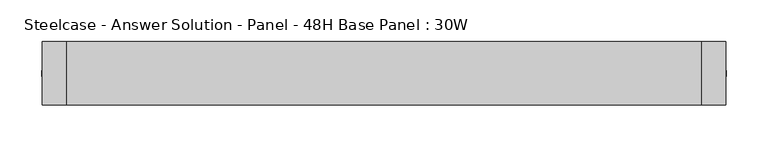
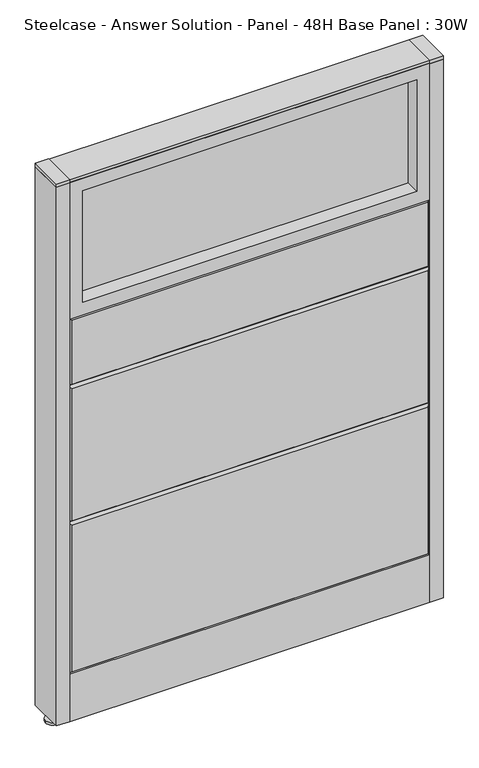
"""IFC4 building model written with IfcOpenShell, lengths in millimetres: furniture geometry, Steelcase - Answer Solution - Panel - 48H Base Panel : 30W."""

from ifc_helpers import new_model, si_unit, point, frame, frame_2d, origin, place, context, project, spatial, polyline, circle_curve, trimmed, segment, composite_curve, outline, extrude, faceted_brep, source, transform, mapped, element, save


def steelcase_answer_solution_panel_48h_base_panel_30w_fe541a43(model_context):
    return source(origin(), model_context, "Body", "SolidModel", [
        extrude(outline(composite_curve([segment(trimmed(circle_curve(frame_2d((395.224, 0.0320214)), 5.08), [point((400.304, 0.0320214))], [point((390.144, 0.0320214))], False, "CARTESIAN"), True, "CONTINUOUS"), segment(trimmed(circle_curve(frame_2d((395.224, 0.0320214)), 5.08), [point((390.144, 0.0320214))], [point((400.304, 0.0320214))], False, "CARTESIAN"), True, "CONTINUOUS")], self_intersect=False)), frame((0.0, 0.0, 5.0799671), z_axis=(0.0, 0.0, 1.0), x_axis=(1.0, 0.0, 0.0)), (0.0, 0.0, 1.0), 10.414),
        extrude(outline(composite_curve([segment(trimmed(circle_curve(frame_2d((395.224, 0.0320214)), 15.24), [point((410.464, 0.0320214))], [point((379.984, 0.0320214))], False, "CARTESIAN"), True, "CONTINUOUS"), segment(trimmed(circle_curve(frame_2d((395.224, 0.0320214)), 15.24), [point((379.984, 0.0320214))], [point((410.464, 0.0320214))], False, "CARTESIAN"), True, "CONTINUOUS")], self_intersect=False)), frame((0.0, 0.0, -3.29e-05), z_axis=(0.0, 0.0, 1.0), x_axis=(1.0, 0.0, 0.0)), (0.0, 0.0, 1.0), 5.08),
        extrude(outline(polyline([(409.575, 38.1320408), (409.575, -38.0679592), (381.0, -38.0679592), (381.0, 38.1320408), (409.575, 38.1320408)])), frame((0.0, 0.0, 1218.2348), z_axis=(0.0, 0.0, 1.0), x_axis=(1.0, 0.0, 0.0)), (0.0, 0.0, 1.0), 7.3151671),
        extrude(outline(polyline([(409.575, 38.1320408), (409.575, -38.0679592), (381.0, -38.0679592), (381.0, 38.1320408), (409.575, 38.1320408)])), frame((0.0, 0.0, 15.4939671), z_axis=(0.0, 0.0, 1.0), x_axis=(1.0, 0.0, 0.0)), (0.0, 0.0, 1.0), 1202.7408329),
        extrude(outline(composite_curve([segment(trimmed(circle_curve(frame_2d((-395.224, 0.0320214)), 5.08), [point((-400.304, 0.0320214))], [point((-390.144, 0.0320214))], False, "CARTESIAN"), True, "CONTINUOUS"), segment(trimmed(circle_curve(frame_2d((-395.224, 0.0320214)), 5.08), [point((-390.144, 0.0320214))], [point((-400.304, 0.0320214))], False, "CARTESIAN"), True, "CONTINUOUS")], self_intersect=False)), frame((0.0, 0.0, 5.0799671), z_axis=(0.0, 0.0, 1.0), x_axis=(1.0, 0.0, 0.0)), (0.0, 0.0, 1.0), 10.414),
        extrude(outline(composite_curve([segment(trimmed(circle_curve(frame_2d((-395.224, 0.0320214)), 15.24), [point((-410.464, 0.0320214))], [point((-379.984, 0.0320214))], False, "CARTESIAN"), True, "CONTINUOUS"), segment(trimmed(circle_curve(frame_2d((-395.224, 0.0320214)), 15.24), [point((-379.984, 0.0320214))], [point((-410.464, 0.0320214))], False, "CARTESIAN"), True, "CONTINUOUS")], self_intersect=False)), frame((0.0, 0.0, -3.29e-05), z_axis=(0.0, 0.0, 1.0), x_axis=(1.0, 0.0, 0.0)), (0.0, 0.0, 1.0), 5.08),
        extrude(outline(polyline([(-409.575, 38.1320408), (-381.0, 38.1320408), (-381.0, -38.0679592), (-409.575, -38.0679592), (-409.575, 38.1320408)])), frame((0.0, 0.0, 1218.2348), z_axis=(0.0, 0.0, 1.0), x_axis=(1.0, 0.0, 0.0)), (0.0, 0.0, 1.0), 7.3151671),
        extrude(outline(polyline([(-409.575, 38.1320408), (-381.0, 38.1320408), (-381.0, -38.0679592), (-409.575, -38.0679592), (-409.575, 38.1320408)])), frame((0.0, 0.0, 15.4939671), z_axis=(0.0, 0.0, 1.0), x_axis=(1.0, 0.0, 0.0)), (0.0, 0.0, 1.0), 1202.7408329),
        extrude(outline(polyline([(-353.06, 6.346049), (353.06, 6.346049), (353.06, -6.353951), (-353.06, -6.353951), (-353.06, 6.346049)])), frame((0.0, 0.0, 942.34), z_axis=(0.0, 0.0, 1.0), x_axis=(1.0, 0.0, 0.0)), (0.0, 0.0, 1.0), 248.92),
        extrude(outline(polyline([(1219.2, -381.0), (914.4, -381.0), (914.4, 381.0), (1219.2, 381.0), (1219.2, -381.0)]), holes=[polyline([(1191.26, -353.06), (1191.26, 353.06), (942.34, 353.06), (942.34, -353.06), (1191.26, -353.06)])]), frame((0.0, -38.103951, 0.0), z_axis=(0.0, 1.0, 0.0), x_axis=(0.0, 0.0, 1.0)), (0.0, 0.0, 1.0), 76.2),
        faceted_brep([(-376.174, 38.1635011, 909.574), (376.174, 38.1635011, 909.574), (376.174, 38.1635011, 766.826), (-376.174, 38.1635011, 766.826), (-381.0, 33.3375011, 914.4), (-381.0, 33.3375011, 762.0), (381.0, 33.3375011, 762.0), (381.0, 33.3375011, 914.4)], [[[0, 1, 2, 3]], [[4, 5, 6, 7]], [[4, 7, 1, 0]], [[7, 6, 2, 1]], [[6, 5, 3, 2]], [[5, 4, 0, 3]]]),
        faceted_brep([(-376.174, 38.1635011, 757.174), (376.174, 38.1635011, 757.174), (376.174, 38.1635011, 462.026), (-376.174, 38.1635011, 462.026), (-381.0, 33.3375011, 762.0), (-381.0, 33.3375011, 457.2), (381.0, 33.3375011, 457.2), (381.0, 33.3375011, 762.0)], [[[0, 1, 2, 3]], [[4, 5, 6, 7]], [[4, 7, 1, 0]], [[7, 6, 2, 1]], [[6, 5, 3, 2]], [[5, 4, 0, 3]]]),
        faceted_brep([(-376.174, 38.1635011, 452.374), (376.174, 38.1635011, 452.374), (376.174, 38.1635011, 125.476), (-376.174, 38.1635011, 125.476), (-381.0, 33.3375011, 457.2), (-381.0, 33.3375011, 120.65), (381.0, 33.3375011, 120.65), (381.0, 33.3375011, 457.2)], [[[0, 1, 2, 3]], [[4, 5, 6, 7]], [[4, 7, 1, 0]], [[7, 6, 2, 1]], [[6, 5, 3, 2]], [[5, 4, 0, 3]]]),
        extrude(outline(polyline([(353.06, -6.346049), (-353.06, -6.346049), (-353.06, 6.353951), (353.06, 6.353951), (353.06, -6.346049)])), frame((0.0, 0.0, 942.34), z_axis=(0.0, 0.0, 1.0), x_axis=(1.0, 0.0, 0.0)), (0.0, 0.0, 1.0), 248.92),
        extrude(outline(polyline([(1219.2, 381.0), (1219.2, -381.0), (914.4, -381.0), (914.4, 381.0), (1219.2, 381.0)]), holes=[polyline([(1191.26, 353.06), (942.34, 353.06), (942.34, -353.06), (1191.26, -353.06), (1191.26, 353.06)])]), frame((0.0, -38.096049, 0.0), z_axis=(0.0, 1.0, 0.0), x_axis=(0.0, 0.0, 1.0)), (0.0, 0.0, 1.0), 76.2),
        faceted_brep([(376.174, -38.1635011, 909.574), (-376.174, -38.1635011, 909.574), (-376.174, -38.1635011, 766.826), (376.174, -38.1635011, 766.826), (381.0, -33.3375011, 914.4), (381.0, -33.3375011, 762.0), (-381.0, -33.3375011, 762.0), (-381.0, -33.3375011, 914.4)], [[[0, 1, 2, 3]], [[4, 5, 6, 7]], [[4, 7, 1, 0]], [[7, 6, 2, 1]], [[6, 5, 3, 2]], [[5, 4, 0, 3]]]),
        faceted_brep([(376.174, -38.1635011, 757.174), (-376.174, -38.1635011, 757.174), (-376.174, -38.1635011, 462.026), (376.174, -38.1635011, 462.026), (381.0, -33.3375011, 762.0), (381.0, -33.3375011, 457.2), (-381.0, -33.3375011, 457.2), (-381.0, -33.3375011, 762.0)], [[[0, 1, 2, 3]], [[4, 5, 6, 7]], [[4, 7, 1, 0]], [[7, 6, 2, 1]], [[6, 5, 3, 2]], [[5, 4, 0, 3]]]),
        faceted_brep([(376.174, -38.1635011, 452.374), (-376.174, -38.1635011, 452.374), (-376.174, -38.1635011, 125.476), (376.174, -38.1635011, 125.476), (381.0, -33.3375011, 457.2), (381.0, -33.3375011, 120.65), (-381.0, -33.3375011, 120.65), (-381.0, -33.3375011, 457.2)], [[[0, 1, 2, 3]], [[4, 5, 6, 7]], [[4, 7, 1, 0]], [[7, 6, 2, 1]], [[6, 5, 3, 2]], [[5, 4, 0, 3]]]),
        extrude(outline(polyline([(381.0, 38.1000194), (381.0, -38.1000194), (-381.0, -38.1000194), (-381.0, 38.1000194), (381.0, 38.1000194)])), frame((0.0, 0.0, 1219.2), z_axis=(0.0, 0.0, 1.0), x_axis=(1.0, 0.0, 0.0)), (0.0, 0.0, 1.0), 6.35),
        extrude(outline(polyline([(25.4000011, 119.8575157), (25.4000011, 120.65), (38.1000194, 120.65), (38.1000194, 15.494), (37.3075215, 15.494), (37.3075215, 119.8575157), (25.4000011, 119.8575157)])), frame((-381.0, 0.0, 0.0), z_axis=(1.0, 0.0, 0.0), x_axis=(0.0, 1.0, 0.0)), (0.0, 0.0, 1.0), 762.0),
        extrude(outline(polyline([(-25.4000011, 119.8575157), (-37.3075215, 119.8575157), (-37.3075215, 15.494), (-38.1000194, 15.494), (-38.1000194, 120.65), (-25.4000011, 120.65), (-25.4000011, 119.8575157)])), frame((-381.0, 0.0, 0.0), z_axis=(1.0, 0.0, 0.0), x_axis=(0.0, 1.0, 0.0)), (0.0, 0.0, 1.0), 762.0),
    ])


if __name__ == "__main__":
    model = new_model("IFC4")
    model_context = context("Model", 3, world=origin())
    ifc_project = project(units=[si_unit("LENGTHUNIT", "METRE", prefix="MILLI")], contexts=[model_context])
    site = spatial("IfcSite", under=ifc_project)
    building = spatial("IfcBuilding", under=site)
    placement = place(None, origin())
    steelcase_answer_solution_panel_48h_base_panel_30w_shape = steelcase_answer_solution_panel_48h_base_panel_30w_fe541a43(model_context)
    element("IfcFurniture", 1, ObjectType="Steelcase - Answer Solution - Panel - 48H Base Panel : 30W", at=placement, inside=building, context=model_context, shape_type="MappedRepresentation", body=[
        mapped(steelcase_answer_solution_panel_48h_base_panel_30w_shape, transform((0.0, 0.0, 0.0), x_axis=(1.0, 0.0, 0.0), y_axis=(0.0, 1.0, 0.0), z_axis=(0.0, 0.0, 1.0))),
    ])
    save(model, "model.ifc")
